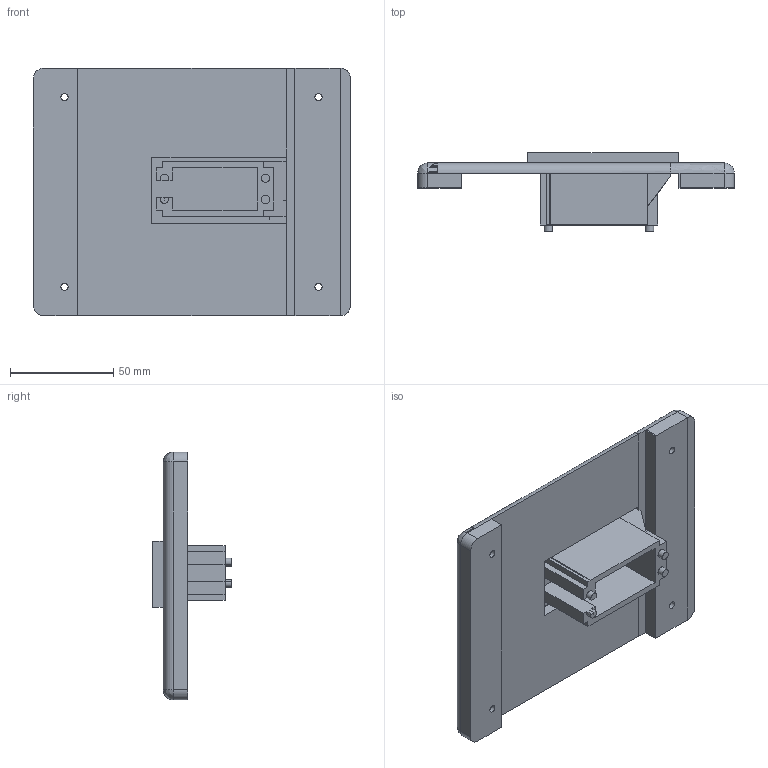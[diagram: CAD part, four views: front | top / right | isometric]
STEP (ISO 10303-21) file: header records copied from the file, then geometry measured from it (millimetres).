
FILE_DESCRIPTION(/* description */ (''),/* implementation_level */ '2;1');
FILE_NAME(/* name */ 'MotorSide.step',/* time_stamp */ '2024-08-31T17:08:06-04:00',/* author */ (''),/* organization */ (''),/* preprocessor_version */ 'ST-DEVELOPER v20',/* originating_system */ 'Autodesk Translation Framework v13.14.0.145',/* authorisation */ '');
FILE_SCHEMA (('AUTOMOTIVE_DESIGN { 1 0 10303 214 3 1 1 }'));
Length unit declared in the file: millimetre
Products named in the file (1): MotorSide
Bounding box: 153.57 x 38 x 120 mm (x, y, z)
Volume: 149367.4 mm3; surface area: 55381.4 mm2
Topology: 1 solids, 1 shells, 136 faces, 384 edges, 239 vertices
Faces by surface type: plane 97, cylinder 22, bspline 12, cone 3, torus 2
Full cylindrical faces by diameter (mm): 3.454 x4, 4 x2
Entity records: 6518 total; most frequent: CARTESIAN_POINT 3089, ORIENTED_EDGE 760, DIRECTION 633, EDGE_CURVE 380, LINE 279, VECTOR 279, VERTEX_POINT 239, AXIS2_PLACEMENT_3D 177
